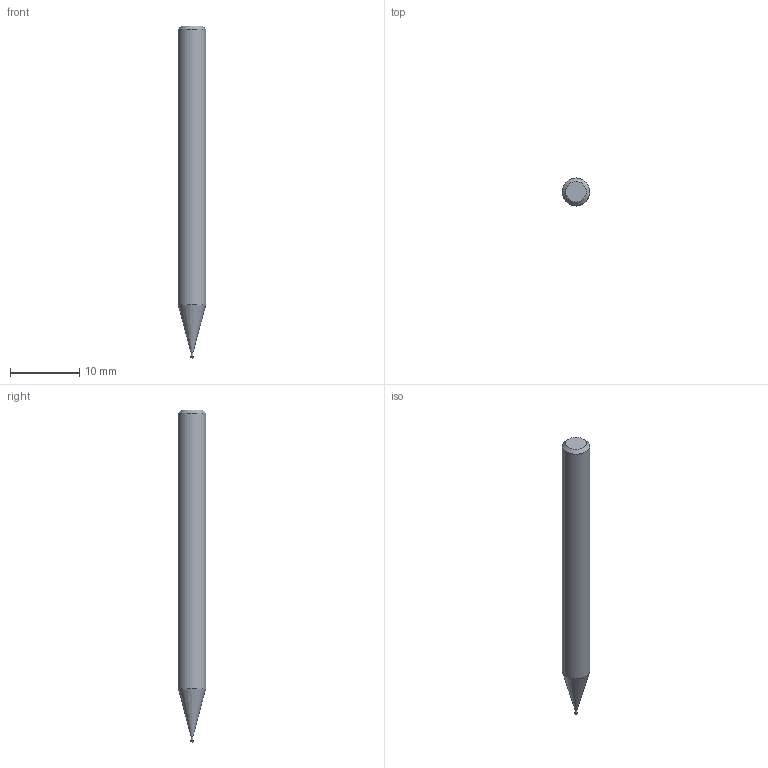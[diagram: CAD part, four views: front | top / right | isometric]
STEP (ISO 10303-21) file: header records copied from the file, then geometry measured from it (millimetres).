
FILE_DESCRIPTION((''),'2;1');
FILE_NAME('C:\Users\nsx150\AppData\Local\Temp\Mastercam 2021\HGI4IWMOT0\TEMP.step','2024-01-12T13:16:48',(''),(''),'STEP Write','Mastercam 2021 ... CNC Software, Inc.','');
FILE_SCHEMA(('AUTOMOTIVE_DESIGN'));
Length unit declared in the file: millimetre
Products named in the file (1): None
Bounding box: 4 x 4 x 48 mm (x, y, z)
Volume: 536.2 mm3; surface area: 564 mm2
Topology: 2 solids, 2 shells, 9 faces, 14 edges, 8 vertices
Faces by surface type: plane 3, cylinder 3, cone 2, sphere 1
Full cylindrical faces by diameter (mm): 0.27 x1, 0.3 x1, 4 x1
Entity records: 211 total; most frequent: DIRECTION 36, CARTESIAN_POINT 25, AXIS2_PLACEMENT_3D 18, ORIENTED_EDGE 14, EDGE_LOOP 14, STYLED_ITEM 12, ADVANCED_FACE 9, FACE_BOUND 8
